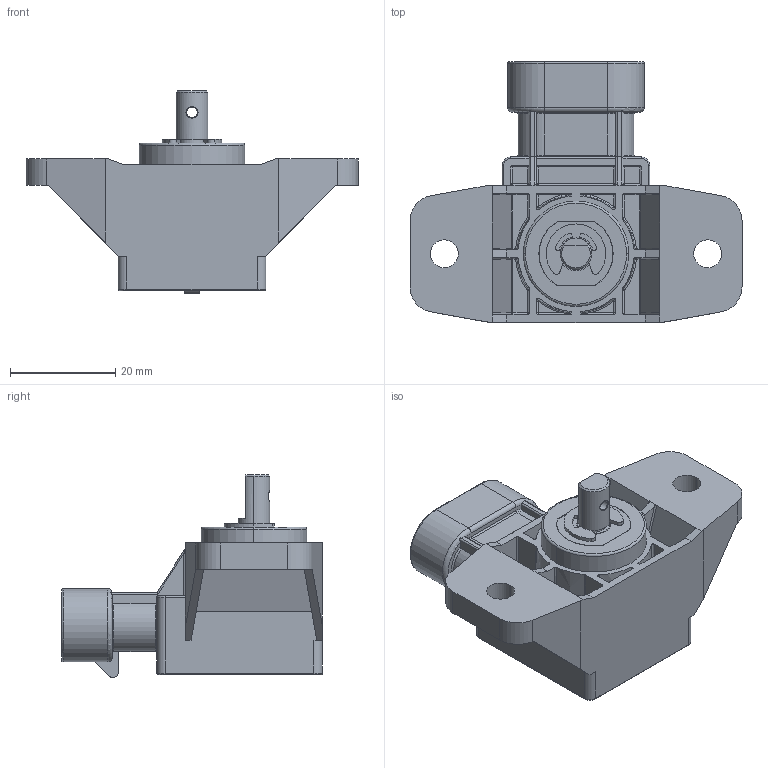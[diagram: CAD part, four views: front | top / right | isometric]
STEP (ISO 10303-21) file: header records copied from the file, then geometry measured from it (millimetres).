
FILE_DESCRIPTION (( 'STEP AP203' ), '1' );
FILE_NAME ('GR3PA S5H2LS xxx xxxx X0.STEP', '2024-12-19T15:26:54', ( '' ), ( '' ), 'SwSTEP 2.0', 'SolidWorks 2024', '' );
FILE_SCHEMA (( 'CONFIG_CONTROL_DESIGN' ));
Length unit declared in the file: millimetre
Products named in the file (1): GR3PA S5H2LS xxx xxxx X0
Bounding box: 63 x 49.5 x 38.47 mm (x, y, z)
Volume: 25336.3 mm3; surface area: 12780.9 mm2
Topology: 7 solids, 7 shells, 525 faces, 1290 edges, 767 vertices
Faces by surface type: plane 210, cylinder 180, bspline 46, sphere 40, torus 36, cone 13
Entity records: 17914 total; most frequent: CARTESIAN_POINT 5875, ORIENTED_EDGE 2508, DIRECTION 2471, EDGE_CURVE 1254, AXIS2_PLACEMENT_3D 898, VERTEX_POINT 767, VECTOR 675, LINE 675
